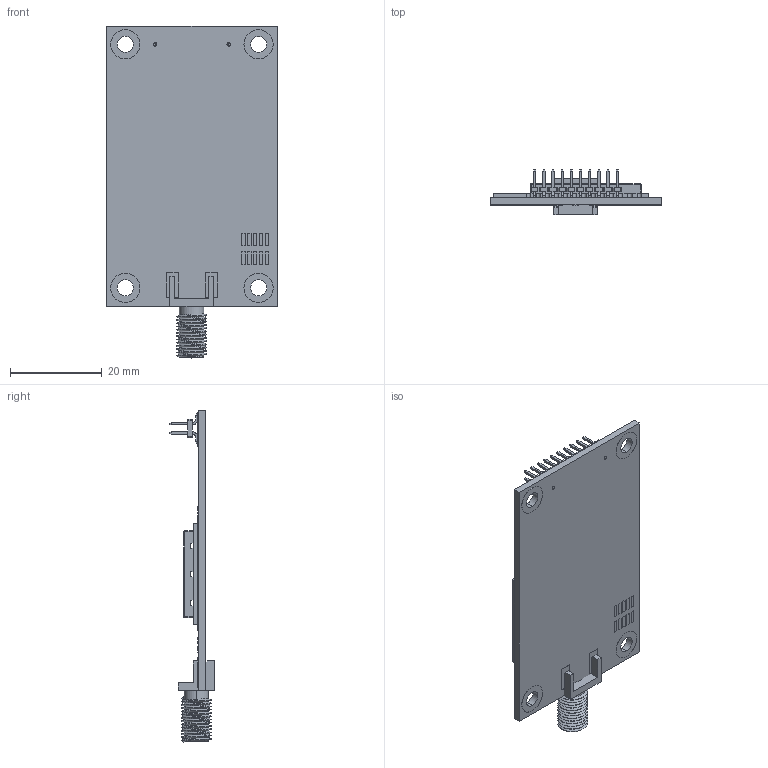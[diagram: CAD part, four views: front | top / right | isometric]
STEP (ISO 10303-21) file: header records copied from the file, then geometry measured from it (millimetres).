
FILE_DESCRIPTION (( 'STEP AP214' ), '1' );
FILE_NAME ('XTR.STEP', '2017-10-17T14:45:45', ( 'Digi User' ), ( 'Digi International' ), 'SwSTEP 2.0', 'SolidWorks 2017', '' );
FILE_SCHEMA (( 'AUTOMOTIVE_DESIGN' ));
Length unit declared in the file: inch
Products named in the file (13): 60001213-01_revA; XB_SMT_PCB; 18050233_A; 30007882-01_A_A; XTR; 18000448; 18050233; 30007882-01_A; XBee_SMT
Assembly tree (7 placements, depth 3):
  XTR
    18000448
  60001213-01_revA
  XB_SMT_PCB
  18050233
  30007882-01_A
Bounding box: 37.01 x 9.79 x 72.26 mm (x, y, z)
Volume: 4782.7 mm3; surface area: 9201.2 mm2
Topology: 15 solids, 15 shells, 1674 faces, 4205 edges, 2724 vertices
Faces by surface type: plane 1416, cylinder 248, torus 4, bspline 4, cone 2
Entity records: 71676 total; most frequent: CARTESIAN_POINT 10796, ORIENTED_EDGE 8408, DIRECTION 8118, EDGE_CURVE 4204, VECTOR 3650, LINE 3650, VERTEX_POINT 2722, AXIS2_PLACEMENT_3D 2234
